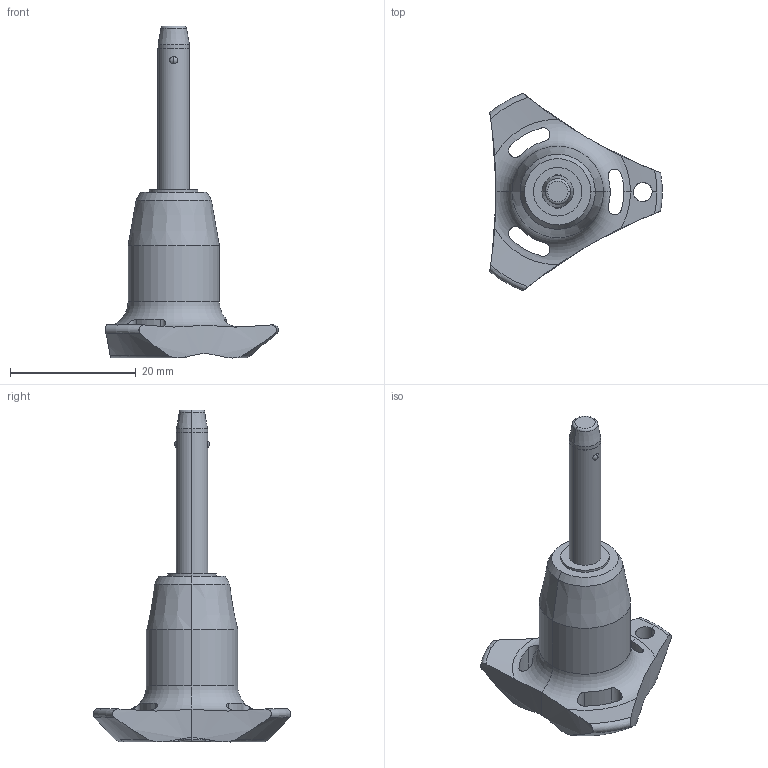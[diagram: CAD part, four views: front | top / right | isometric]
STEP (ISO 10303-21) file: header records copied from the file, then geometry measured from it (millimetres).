
FILE_DESCRIPTION (( 'STEP AP203' ), '1' );
FILE_NAME ('QR1736.M05-020-T.step', '2025-11-13T11:45:38', ( '' ), ( '' ), 'SwSTEP 2.0', 'SolidWorks 2019', '' );
FILE_SCHEMA (( 'CONFIG_CONTROL_DESIGN' ));
Length unit declared in the file: millimetre
Products named in the file (1): QR1736.M05-020-T
Bounding box: 27.4 x 31.31 x 52.7 mm (x, y, z)
Volume: 5260.6 mm3; surface area: 2822.6 mm2
Topology: 1 solids, 1 shells, 69 faces, 187 edges, 119 vertices
Faces by surface type: cylinder 32, cone 14, torus 12, sphere 6, plane 5
Entity records: 2773 total; most frequent: CARTESIAN_POINT 994, ORIENTED_EDGE 374, DIRECTION 348, EDGE_CURVE 187, AXIS2_PLACEMENT_3D 155, VERTEX_POINT 119, CIRCLE 85, EDGE_LOOP 76
